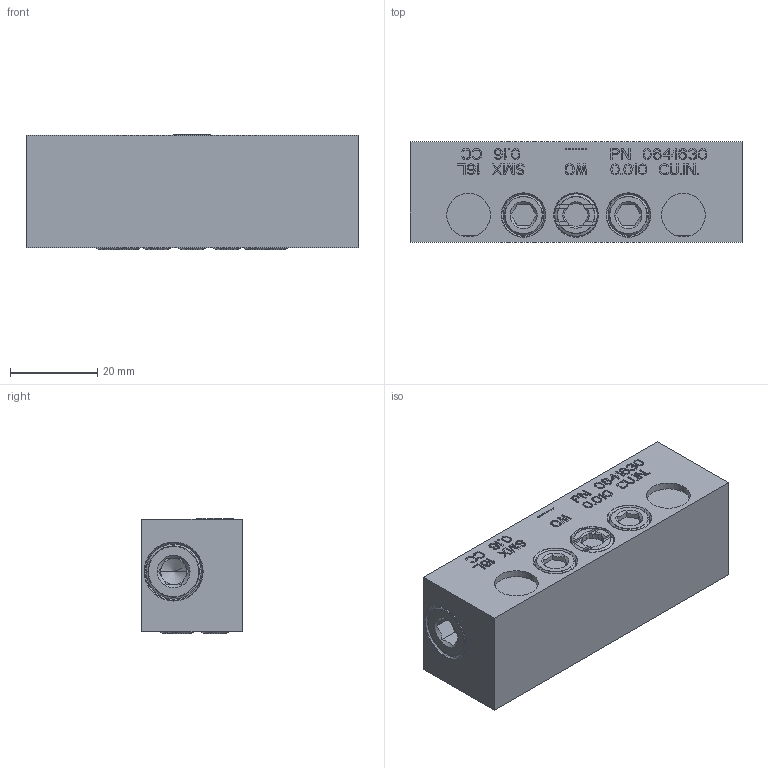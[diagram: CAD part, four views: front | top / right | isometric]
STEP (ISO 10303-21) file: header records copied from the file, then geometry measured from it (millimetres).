
FILE_DESCRIPTION((''),'2;1');
FILE_NAME('0641630_SMX_16L','2023-07-21T10:56:45',('pietro.masciave'),(''),'CREO PARAMETRIC BY PTC INC, 2022281','CREO PARAMETRIC BY PTC INC, 2022281','');
FILE_SCHEMA(('CONFIG_CONTROL_DESIGN'));
Length unit declared in the file: millimetre
Products named in the file (1): 0641630_SMX_16L
Bounding box: 76 x 23 x 26.33 mm (x, y, z)
Volume: 44005.2 mm3; surface area: 12666.4 mm2
Topology: 1 solids, 14 shells, 1330 faces, 3674 edges, 2441 vertices
Faces by surface type: plane 1154, cylinder 110, cone 44, torus 22
Entity records: 42968 total; most frequent: CARTESIAN_POINT 8769, ORIENTED_EDGE 7300, DIRECTION 6613, EDGE_CURVE 3670, VECTOR 3235, LINE 3235, VERTEX_POINT 2441, AXIS2_PLACEMENT_3D 1689
